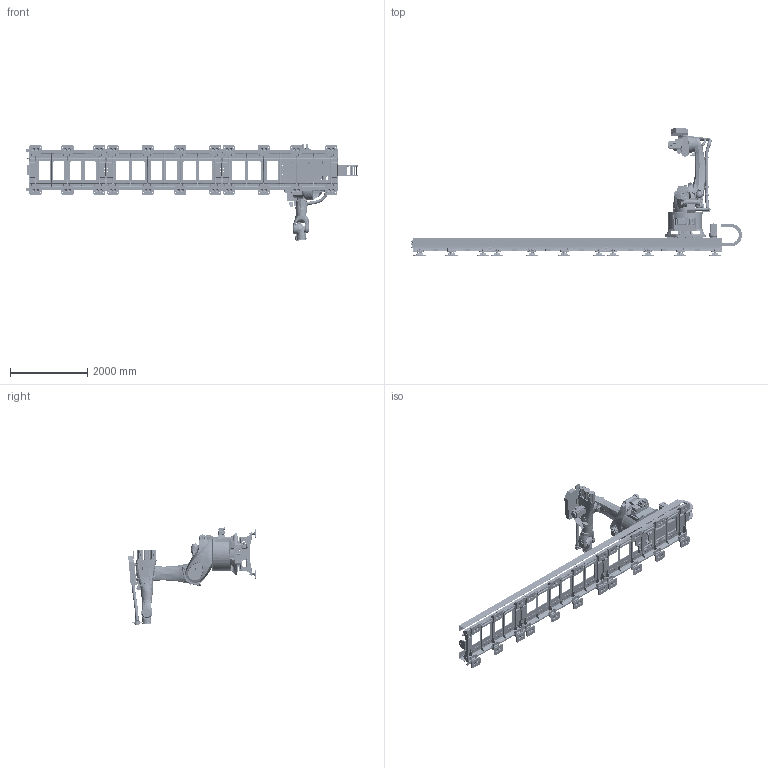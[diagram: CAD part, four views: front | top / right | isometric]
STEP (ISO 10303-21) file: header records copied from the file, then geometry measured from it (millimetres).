
FILE_DESCRIPTION(('CATIA V5 STEP Exchange','CAx-IF Rec.Pracs.--- Model Styling and Organization---1.5--- 2016-08-15','CAx-IF Rec.Pracs.---Supplemental Geometry---1.0---2011-11-01','CAx-IF Rec.Pracs.--- Composite Materials ---1.1---2010-07-15'),'2;1');
FILE_NAME('H:\2025-3-4-郑州BYD项目\3维数据\ZZ-ROOF015L1-8000\ZZ-ROOF015L1-8500.stp','2025-04-29T02:59:32+00:00',('none'),('none'),'CATIA Version 5-6 Release 2020','CATIA V5 STEP AP214 v1','none');
FILE_SCHEMA(('AUTOMOTIVE_DESIGN { 1 0 10303 214 1 1 1 1 }'));
Products named in the file (100): ZZ-ROOF015R1-8000; Product1; SG2210-A-A01; SG2210-A-A01.; SA2210-A-A11-01.1; Copy (1) of SA2210-A-A06.; SA2210-A-A09..14.17; M16_120.stp; ISO 7089 WASHER 16x30 STEEL GRADE A PLAIN NORMAL SERIES.2.stp; ISO 8738 WASHER 16 STEEL GRADE A PLAIN WASHER FOR CLEVIS PIN.1.stp.43.29; ISO 4762 SCREW M16x120 STEEL HEXAGON SOCKET HEAD CAP.stp.29; SA2210-A-A11-01-00; Copy (1) of SA2210-A-A07-04.1.stp.45.30; ASME B18.3.6M SCREW M6x20 STEEL HEX SOCKET SET OVAL POINT.37; SG2210-A-A03; SG2210-A-A03.; 2025-3-4-00; Product2; SG2210-A-A06; SG2210-A-A06-02; SG2210-A-A07.; Copy (1) of Copy (1) of M12.stp; Copy (1) of M12_45.stp; ISO 7089 WASHER 12x24 STEEL GRADE A PLAIN NORMAL SERIES.stp.23; ISO 8738 WASHER 12 STEEL GRADE A PLAIN WASHER FOR CLEVIS PIN.stp.69.67.34; ISO 4762 SCREW M12x45 STEEL HEXAGON SOCKET HEAD CAP.stp.67.90; Copy (1) of SA2210-A-A08-02.stp; Copy (1) of M12_45_3.stp; JIS B 1359 PIN 10x50 PARALLEL WITH INTERNAL THREAD CLASS 1.stp.82.35; Copy (1) of M12_45_2.stp; Copy (1) of M8_80.stp; ISO 4762 SCREW M8x80 STEEL HEXAGON SOCKET HEAD CAP.stp.122; SY20230207-ZZ-01-06-03-02.stp.6.18; Copy (1) of M12_45_1.stp; Copy (1) of 3900ib-SP  180S-MF1-   10-1K1-2SEC0154.stp; #3900ib-Abtrieb_SP_m150EC0154#_1.stp.43; #3900ib-Abtrieb_SP_m150_3EC0154#_1.stp.56.83; #3900ib-gb_fastener_washer_pwec 20_GB_FASTENER_WASHER_PWEC 204#_1.stp.42.68.38; #3900ib-Abtrieb_SP_m150_4EC0154#_1.stp.123.19; #3900ib-gb_fastener_bolt_sshb a m16x65-simplified_GB_FASTENER_BOLT_SSHB A M16X65-Simplified4#_1.stp.55.124.15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
Assembly tree (165 placements, depth 7):
  ZZ-ROOF015R1-8000
    Product1
      SG2210-A-A01
        SG2210-A-A01.
        SA2210-A-A11-01.1  x6
          Copy (1) of SA2210-A-A06.
          SA2210-A-A09..14.17
          M16_120.stp
            ISO 7089 WASHER 16x30 STEEL GRADE A PLAIN NORMAL SERIES.2.stp
            ISO 8738 WASHER 16 STEEL GRADE A PLAIN WASHER FOR CLEVIS PIN.1.stp.43.29
            ISO 4762 SCREW M16x120 STEEL HEXAGON SOCKET HEAD CAP.stp.29
          SA2210-A-A11-01-00
            Copy (1) of SA2210-A-A07-04.1.stp.45.30
            ASME B18.3.6M SCREW M6x20 STEEL HEX SOCKET SET OVAL POINT.37  x4
      SG2210-A-A03  x2
        SG2210-A-A03.
        SA2210-A-A11-01.1
          Copy (1) of SA2210-A-A06.
          SA2210-A-A09..14.17
          M16_120.stp  x2
            ISO 7089 WASHER 16x30 STEEL GRADE A PLAIN NORMAL SERIES.2.stp
            ISO 8738 WASHER 16 STEEL GRADE A PLAIN WASHER FOR CLEVIS PIN.1.stp.43.29
            ISO 4762 SCREW M16x120 STEEL HEXAGON SOCKET HEAD CAP.stp.29
          SA2210-A-A11-01-00  x2
            Copy (1) of SA2210-A-A07-04.1.stp.45.30
            ASME B18.3.6M SCREW M6x20 STEEL HEX SOCKET SET OVAL POINT.37
      2025-3-4-00
    Product2
      SG2210-A-A06
        SG2210-A-A06-02
          SG2210-A-A07.
          Copy (1) of Copy (1) of M12.stp
            Copy (1) of M12_45.stp  x12
              ISO 7089 WASHER 12x24 STEEL GRADE A PLAIN NORMAL SERIES.stp.23
              ISO 8738 WASHER 12 STEEL GRADE A PLAIN WASHER FOR CLEVIS PIN.stp.69.67.34
              ISO 4762 SCREW M12x45 STEEL HEXAGON SOCKET HEAD CAP.stp.67.90
          Copy (1) of SA2210-A-A08-02.stp
            Copy (1) of M12_45_3.stp
              ISO 4762 SCREW M12x45 STEEL HEXAGON SOCKET HEAD CAP.stp.67.90
              ISO 7089 WASHER 12x24 STEEL GRADE A PLAIN NORMAL SERIES.stp.23
              ISO 8738 WASHER 12 STEEL GRADE A PLAIN WASHER FOR CLEVIS PIN.stp.69.67.34
            JIS B 1359 PIN 10x50 PARALLEL WITH INTERNAL THREAD CLASS 1.stp.82.35  x2
            Copy (1) of M12_45_2.stp
              ISO 8738 WASHER 12 STEEL GRADE A PLAIN WASHER FOR CLEVIS PIN.stp.69.67.34
              ISO 4762 SCREW M12x45 STEEL HEXAGON SOCKET HEAD CAP.stp.67.90
              ISO 7089 WASHER 12x24 STEEL GRADE A PLAIN NORMAL SERIES.stp.23
            Copy (1) of M8_80.stp
              ISO 4762 SCREW M8x80 STEEL HEXAGON SOCKET HEAD CAP.stp.122  x2
            SY20230207-ZZ-01-06-03-02.stp.6.18
            Copy (1) of M12_45_1.stp
              ISO 8738 WASHER 12 STEEL GRADE A PLAIN WASHER FOR CLEVIS PIN.stp.69.67.34
              ISO 7089 WASHER 12x24 STEEL GRADE A PLAIN NORMAL SERIES.stp.23
              ISO 4762 SCREW M12x45 STEEL HEXAGON SOCKET HEAD CAP.stp.67.90
          Copy (1) of 3900ib-SP  180S-MF1-   10-1K1-2SEC0154.stp
            #3900ib-Abtrieb_SP_m150EC0154#_1.stp.43
            #3900ib-Abtrieb_SP_m150_3EC0154#_1.stp.56.83
            #3900ib-gb_fastener_washer_pwec 20_GB_FASTENER_WASHER_PWEC 204#_1.stp.42.68.38
            #3900ib-Abtrieb_SP_m150_4EC0154#_1.stp.123.19
            #3900ib-gb_fastener_bolt_sshb a m16x65-simplified_GB_FASTENER_BOLT_SSHB A M16X65-Simplified4#_1.stp.55.124.15
            #3900ib-Abtrieb_SP_m150_2EC0154#_1.stp.7.112.20
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Bounding box: 8586.66 x 3299.76 x 2517.18 mm (x, y, z)
Volume: 1426377631.2 mm3; surface area: 75463704.5 mm2
Topology: 619 solids, 745 shells, 32798 faces, 92181 edges, 61226 vertices
Faces by surface type: plane 14702, cylinder 9518, cone 3658, bspline 2224, torus 1758, sphere 627, extrusion 304, revolution 7
Entity records: 672220 total; most frequent: CARTESIAN_POINT 287989, ORIENTED_EDGE 92942, DIRECTION 48931, EDGE_CURVE 47006, VERTEX_POINT 32123, VECTOR 20797, LINE 20618, AXIS2_PLACEMENT_3D 19771
